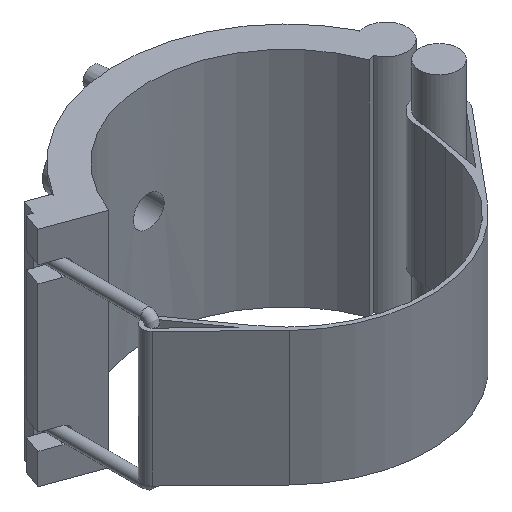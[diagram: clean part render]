
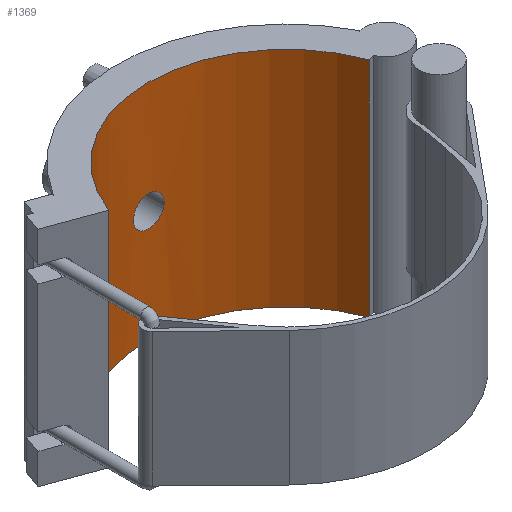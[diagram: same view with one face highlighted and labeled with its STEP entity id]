
A CAD part, isometric view. The second image highlights one B-rep face of the part: STEP entity #1369.
In plain terms, the highlighted cylindrical face has radius 109.35 mm (diameter 218.7 mm), a partial arc.
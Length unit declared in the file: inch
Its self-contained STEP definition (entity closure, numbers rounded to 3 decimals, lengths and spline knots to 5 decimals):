
#27=B_SPLINE_CURVE_WITH_KNOTS('',3,(#2424,#2425,#2426,#2427,#2428,#2429,
#2430,#2431,#2432,#2433,#2434,#2435,#2436,#2437,#2438,#2439,#2440,#2441,
#2442,#2443,#2444,#2445,#2446,#2447,#2448,#2449,#2450,#2451,#2452,#2453,
#2454,#2455,#2456,#2457),.UNSPECIFIED.,.T.,.F.,(4,2,2,2,2,2,2,2,2,2,2,2,
2,2,2,2,4),(0.,0.45681,0.91363,1.37044,1.82725,
2.28406,2.74087,3.19768,3.65449,4.1113,
4.56812,5.02493,5.48174,5.93855,6.39536,
6.85217,7.30898),.UNSPECIFIED.);
#52=CYLINDRICAL_SURFACE('',#1517,4.30512);
#75=FACE_BOUND('',#295,.T.);
#119=CIRCLE('',#1483,4.30512);
#130=CIRCLE('',#1515,4.30512);
#205=FACE_OUTER_BOUND('',#294,.T.);
#294=EDGE_LOOP('',(#1181,#1182,#1183,#1184));
#295=EDGE_LOOP('',(#1185));
#374=LINE('',#2141,#488);
#426=LINE('',#2421,#540);
#488=VECTOR('',#1714,0.3937);
#540=VECTOR('',#1868,0.3937);
#619=VERTEX_POINT('',#2138);
#620=VERTEX_POINT('',#2140);
#641=VERTEX_POINT('',#2210);
#657=VERTEX_POINT('',#2417);
#658=VERTEX_POINT('',#2423);
#764=EDGE_CURVE('',#620,#619,#374,.T.);
#800=EDGE_CURVE('',#620,#641,#119,.T.);
#837=EDGE_CURVE('',#657,#619,#130,.T.);
#838=EDGE_CURVE('',#657,#641,#426,.T.);
#839=EDGE_CURVE('',#658,#658,#27,.T.);
#1181=ORIENTED_EDGE('',*,*,#838,.T.);
#1182=ORIENTED_EDGE('',*,*,#800,.F.);
#1183=ORIENTED_EDGE('',*,*,#764,.T.);
#1184=ORIENTED_EDGE('',*,*,#837,.F.);
#1185=ORIENTED_EDGE('',*,*,#839,.T.);
#1369=ADVANCED_FACE('',(#205,#75),#52,.F.);
#1483=AXIS2_PLACEMENT_3D('',#2211,#1780,#1781);
#1515=AXIS2_PLACEMENT_3D('',#2419,#1864,#1865);
#1517=AXIS2_PLACEMENT_3D('',#2422,#1869,#1870);
#1714=DIRECTION('',(0.,0.,-1.));
#1780=DIRECTION('center_axis',(0.,0.,-1.));
#1781=DIRECTION('ref_axis',(-1.,0.,0.));
#1864=DIRECTION('center_axis',(0.,0.,1.));
#1865=DIRECTION('ref_axis',(-1.,0.,0.));
#1868=DIRECTION('',(0.,0.,1.));
#1869=DIRECTION('center_axis',(0.,0.,1.));
#1870=DIRECTION('ref_axis',(-1.,0.,0.));
#2138=CARTESIAN_POINT('',(-4.04549,1.47244,-3.465));
#2140=CARTESIAN_POINT('',(-4.04549,1.47244,3.465));
#2141=CARTESIAN_POINT('',(-4.04549,1.47244,0.));
#2210=CARTESIAN_POINT('',(4.04549,1.47244,3.465));
#2211=CARTESIAN_POINT('Origin',(0.,0.,3.465));
#2417=CARTESIAN_POINT('',(4.04549,1.47244,-3.465));
#2419=CARTESIAN_POINT('Origin',(0.,0.,-3.465));
#2421=CARTESIAN_POINT('',(4.04549,1.47244,0.));
#2422=CARTESIAN_POINT('Origin',(0.,0.,0.));
#2423=CARTESIAN_POINT('',(0.47702,4.27861,0.));
#2424=CARTESIAN_POINT('Ctrl Pts',(0.47702,4.27861,0.));
#2425=CARTESIAN_POINT('Ctrl Pts',(0.47702,4.27861,-0.05995));
#2426=CARTESIAN_POINT('Ctrl Pts',(0.46503,4.28,-0.12386));
#2427=CARTESIAN_POINT('Ctrl Pts',(0.41634,4.28501,-0.24137));
#2428=CARTESIAN_POINT('Ctrl Pts',(0.37963,4.28856,-0.29498));
#2429=CARTESIAN_POINT('Ctrl Pts',(0.29498,4.29521,-0.37963));
#2430=CARTESIAN_POINT('Ctrl Pts',(0.24137,4.29875,-0.41634));
#2431=CARTESIAN_POINT('Ctrl Pts',(0.12386,4.30374,-0.46503));
#2432=CARTESIAN_POINT('Ctrl Pts',(0.05995,4.30512,-0.47702));
#2433=CARTESIAN_POINT('Ctrl Pts',(-0.05995,4.30512,
-0.47702));
#2434=CARTESIAN_POINT('Ctrl Pts',(-0.12386,4.30374,-0.46503));
#2435=CARTESIAN_POINT('Ctrl Pts',(-0.24137,4.29875,-0.41634));
#2436=CARTESIAN_POINT('Ctrl Pts',(-0.29498,4.29521,-0.37963));
#2437=CARTESIAN_POINT('Ctrl Pts',(-0.37963,4.28856,-0.29498));
#2438=CARTESIAN_POINT('Ctrl Pts',(-0.41634,4.28501,-0.24137));
#2439=CARTESIAN_POINT('Ctrl Pts',(-0.46503,4.28,-0.12386));
#2440=CARTESIAN_POINT('Ctrl Pts',(-0.47702,4.27861,-0.05995));
#2441=CARTESIAN_POINT('Ctrl Pts',(-0.47702,4.27861,0.05995));
#2442=CARTESIAN_POINT('Ctrl Pts',(-0.46503,4.28,0.12386));
#2443=CARTESIAN_POINT('Ctrl Pts',(-0.41634,4.28501,0.24137));
#2444=CARTESIAN_POINT('Ctrl Pts',(-0.37963,4.28856,0.29498));
#2445=CARTESIAN_POINT('Ctrl Pts',(-0.29498,4.29521,0.37963));
#2446=CARTESIAN_POINT('Ctrl Pts',(-0.24137,4.29875,0.41634));
#2447=CARTESIAN_POINT('Ctrl Pts',(-0.12386,4.30374,0.46503));
#2448=CARTESIAN_POINT('Ctrl Pts',(-0.05995,4.30512,
0.47702));
#2449=CARTESIAN_POINT('Ctrl Pts',(0.05995,4.30512,0.47702));
#2450=CARTESIAN_POINT('Ctrl Pts',(0.12386,4.30374,0.46503));
#2451=CARTESIAN_POINT('Ctrl Pts',(0.24137,4.29875,0.41634));
#2452=CARTESIAN_POINT('Ctrl Pts',(0.29498,4.29521,0.37963));
#2453=CARTESIAN_POINT('Ctrl Pts',(0.37963,4.28856,0.29498));
#2454=CARTESIAN_POINT('Ctrl Pts',(0.41634,4.28501,0.24137));
#2455=CARTESIAN_POINT('Ctrl Pts',(0.46503,4.28,0.12386));
#2456=CARTESIAN_POINT('Ctrl Pts',(0.47702,4.27861,0.05995));
#2457=CARTESIAN_POINT('Ctrl Pts',(0.47702,4.27861,0.));
